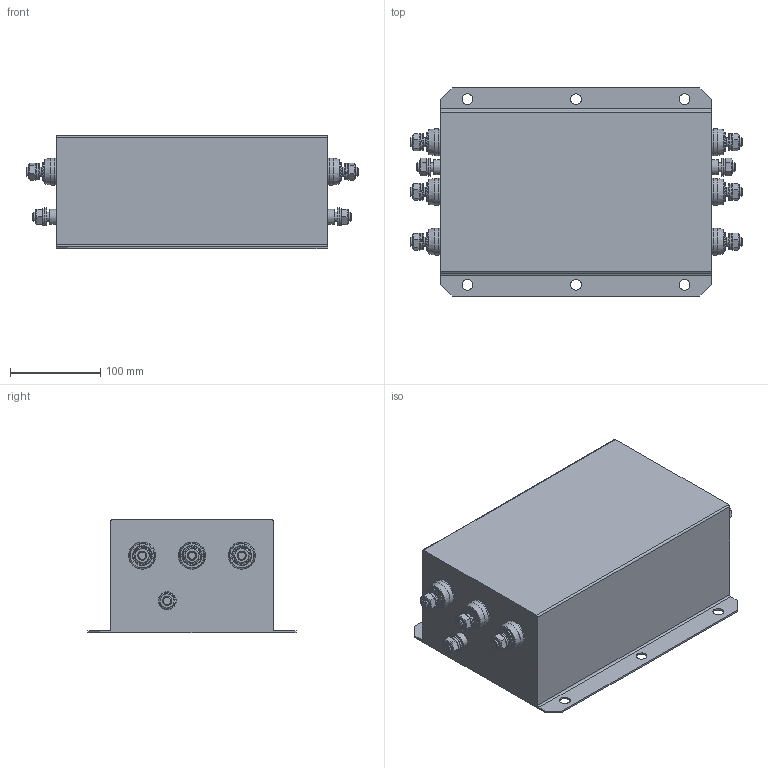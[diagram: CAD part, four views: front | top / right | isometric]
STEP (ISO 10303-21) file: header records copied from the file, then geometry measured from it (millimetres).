
FILE_DESCRIPTION((''),'2;1');
FILE_NAME('P:\Construction\Filter_Marketing\FN\FN3359\FN3359-250-28\FN3359-250-28.stp','2015-06-19T09:35:45',('erika.jenzer'),(''),'Autodesk Inventor 2013','Autodesk Inventor 2013','');
FILE_SCHEMA(('AUTOMOTIVE_DESIGN { 1 0 10303 214 1 1 1 1 }'));
Length unit declared in the file: millimetre
Products named in the file (1): FN3359-250-28
Bounding box: 367 x 230 x 125 mm (x, y, z)
Volume: 6899900.7 mm3; surface area: 317703.7 mm2
Topology: 11 solids, 35 shells, 1190 faces, 2976 edges, 1888 vertices
Faces by surface type: plane 430, cylinder 324, bspline 216, cone 172, torus 48
Full cylindrical faces by diameter (mm): 4 x48, 8.376 x2, 9.188 x2, 10 x16, 10.5 x8, 12 x6, 14.158 x2, 15.4 x2, 15.9 x6, 16.5 x2, 18 x6, 18.269 x6, 20 x2, 21 x6, 21.1 x6
Entity records: 44790 total; most frequent: CARTESIAN_POINT 18205, ORIENTED_EDGE 5216, DIRECTION 4678, EDGE_CURVE 2608, AXIS2_PLACEMENT_3D 1863, VERTEX_POINT 1752, EDGE_LOOP 1630, STYLED_ITEM 1195
